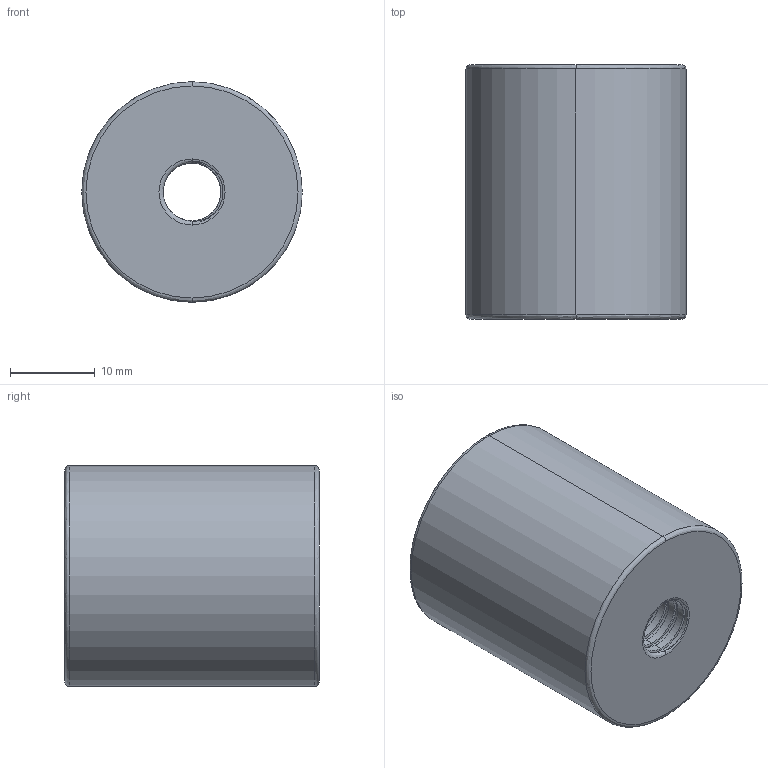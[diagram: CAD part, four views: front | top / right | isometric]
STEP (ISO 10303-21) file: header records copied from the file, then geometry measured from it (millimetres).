
FILE_DESCRIPTION( ( 'STEP AP203' ), '1' );
FILE_NAME( 'C:/Documents and Settings/EXPER/Desktop/d40/D40 - 26x30.step', '2002-12-31T22:10:56', ( ' ' ), ( ' ' ), 'XStep 1.0', ' ', ' ' );
FILE_SCHEMA( ( 'CONFIG_CONTROL_DESIGN' ) );
Length unit declared in the file: metre
Products named in the file (1): 1
Bounding box: 26 x 30 x 26 mm (x, y, z)
Volume: 9649.1 mm3; surface area: 4800.8 mm2
Topology: 1 solids, 1 shells, 61 faces, 161 edges, 103 vertices
Faces by surface type: revolution 43, bspline 18
Entity records: 4058 total; most frequent: CARTESIAN_POINT 2773, ORIENTED_EDGE 322, EDGE_CURVE 161, DIRECTION 144, VERTEX_POINT 103, B_SPLINE_CURVE_WITH_KNOTS 87, EDGE_LOOP 64, ADVANCED_FACE 61
